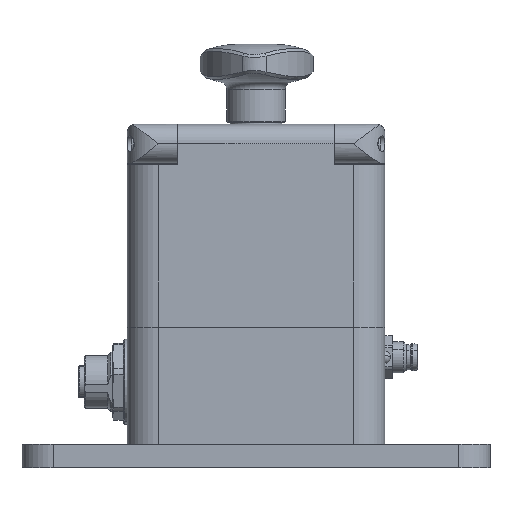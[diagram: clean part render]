
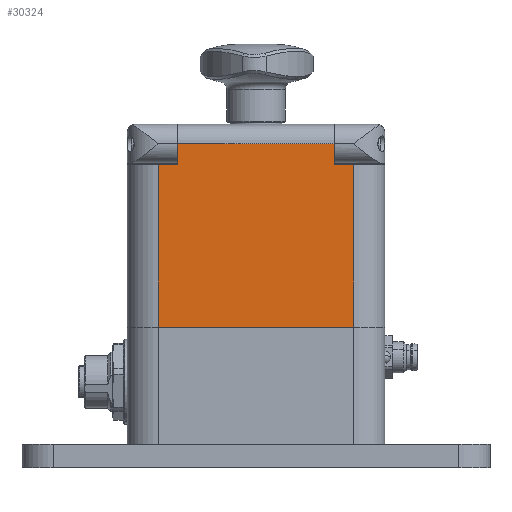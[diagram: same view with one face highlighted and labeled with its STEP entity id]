
A CAD part, front view. The second image highlights one B-rep face of the part: STEP entity #30324.
In plain terms, the highlighted planar face has unit normal (0, -1, 0) as drawn and (0, 0, -1) by its records, which use the part's own axes.
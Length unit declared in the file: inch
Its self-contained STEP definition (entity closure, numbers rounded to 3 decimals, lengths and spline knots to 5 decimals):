
#315 = DIRECTION ( 'NONE',  ( 1., 0., 0. ) ) ;
#533 = CARTESIAN_POINT ( 'NONE',  ( 0.31496, 1.1811, -2.28346 ) ) ;
#1809 = VECTOR ( 'NONE', #7686, 39.37008 ) ;
#2292 = VERTEX_POINT ( 'NONE', #29556 ) ;
#3008 = FACE_OUTER_BOUND ( 'NONE', #35938, .T. ) ;
#3874 = LINE ( 'NONE', #38764, #25384 ) ;
#4617 = ORIENTED_EDGE ( 'NONE', *, *, #6056, .F. ) ;
#5524 = VERTEX_POINT ( 'NONE', #19600 ) ;
#5623 = AXIS2_PLACEMENT_3D ( 'NONE', #31825, #28690, #12201 ) ;
#6056 = EDGE_CURVE ( 'NONE', #30313, #23008, #29767, .T. ) ;
#6262 = VERTEX_POINT ( 'NONE', #28909 ) ;
#7116 = VECTOR ( 'NONE', #14816, 39.37008 ) ;
#7451 = CARTESIAN_POINT ( 'NONE',  ( 2.59843, 1.1811, -2.28346 ) ) ;
#7686 = DIRECTION ( 'NONE',  ( 0., -1., 0. ) ) ;
#9061 = VECTOR ( 'NONE', #29981, 39.37008 ) ;
#9303 = LINE ( 'NONE', #21197, #39857 ) ;
#10093 = VERTEX_POINT ( 'NONE', #24231 ) ;
#10256 = ORIENTED_EDGE ( 'NONE', *, *, #30127, .F. ) ;
#10438 = ORIENTED_EDGE ( 'NONE', *, *, #39153, .T. ) ;
#12201 = DIRECTION ( 'NONE',  ( -1., 0., 0. ) ) ;
#14114 = ORIENTED_EDGE ( 'NONE', *, *, #15359, .T. ) ;
#14816 = DIRECTION ( 'NONE',  ( 0., -1., 0. ) ) ;
#15000 = ORIENTED_EDGE ( 'NONE', *, *, #27052, .T. ) ;
#15225 = CARTESIAN_POINT ( 'NONE',  ( 0.51181, 3.22835, -2.28346 ) ) ;
#15359 = EDGE_CURVE ( 'NONE', #30884, #2292, #3874, .T. ) ;
#15691 = ORIENTED_EDGE ( 'NONE', *, *, #39222, .T. ) ;
#17660 = DIRECTION ( 'NONE',  ( 0., 1., 0. ) ) ;
#19600 = CARTESIAN_POINT ( 'NONE',  ( 0.51181, 2.82283, -2.28346 ) ) ;
#19799 = ORIENTED_EDGE ( 'NONE', *, *, #38049, .F. ) ;
#20590 = LINE ( 'NONE', #33535, #21115 ) ;
#21115 = VECTOR ( 'NONE', #17660, 39.37008 ) ;
#21197 = CARTESIAN_POINT ( 'NONE',  ( 2.28346, 1.14173, -2.28346 ) ) ;
#22441 = VECTOR ( 'NONE', #39595, 39.37008 ) ;
#23008 = VERTEX_POINT ( 'NONE', #24561 ) ;
#24231 = CARTESIAN_POINT ( 'NONE',  ( 0.31496, 2.82283, -2.28346 ) ) ;
#24561 = CARTESIAN_POINT ( 'NONE',  ( 2.08661, 2.82283, -2.28346 ) ) ;
#25363 = PLANE ( 'NONE',  #5623 ) ;
#25384 = VECTOR ( 'NONE', #315, 39.37008 ) ;
#25466 = VERTEX_POINT ( 'NONE', #533 ) ;
#26800 = EDGE_CURVE ( 'NONE', #30884, #5524, #27351, .T. ) ;
#27052 = EDGE_CURVE ( 'NONE', #2292, #23008, #36097, .T. ) ;
#27351 = LINE ( 'NONE', #15225, #7116 ) ;
#28333 = CARTESIAN_POINT ( 'NONE',  ( 2.59843, 2.82283, -2.28346 ) ) ;
#28501 = DIRECTION ( 'NONE',  ( 0., -1., 0. ) ) ;
#28570 = VECTOR ( 'NONE', #31056, 39.37008 ) ;
#28690 = DIRECTION ( 'NONE',  ( 0., 0., 1. ) ) ;
#28825 = CARTESIAN_POINT ( 'NONE',  ( 0.51181, 3.0315, -2.28346 ) ) ;
#28909 = CARTESIAN_POINT ( 'NONE',  ( 2.28346, 1.1811, -2.28346 ) ) ;
#29556 = CARTESIAN_POINT ( 'NONE',  ( 2.08661, 3.0315, -2.28346 ) ) ;
#29767 = LINE ( 'NONE', #35643, #22441 ) ;
#29981 = DIRECTION ( 'NONE',  ( 1., 0., 0. ) ) ;
#30127 = EDGE_CURVE ( 'NONE', #5524, #10093, #33984, .T. ) ;
#30313 = VERTEX_POINT ( 'NONE', #32509 ) ;
#30324 = ADVANCED_FACE ( 'NONE', ( #3008 ), #25363, .F. ) ;
#30382 = LINE ( 'NONE', #7451, #9061 ) ;
#30884 = VERTEX_POINT ( 'NONE', #28825 ) ;
#31056 = DIRECTION ( 'NONE',  ( -1., 0., 0. ) ) ;
#31825 = CARTESIAN_POINT ( 'NONE',  ( 2.59843, 2.83465, -2.28346 ) ) ;
#32509 = CARTESIAN_POINT ( 'NONE',  ( 2.28346, 2.82283, -2.28346 ) ) ;
#33535 = CARTESIAN_POINT ( 'NONE',  ( 0.31496, 2.83465, -2.28346 ) ) ;
#33984 = LINE ( 'NONE', #28333, #28570 ) ;
#35643 = CARTESIAN_POINT ( 'NONE',  ( 2.59843, 2.82283, -2.28346 ) ) ;
#35938 = EDGE_LOOP ( 'NONE', ( #19799, #10438, #10256, #41337, #14114, #15000, #4617, #15691 ) ) ;
#36097 = LINE ( 'NONE', #36296, #1809 ) ;
#36296 = CARTESIAN_POINT ( 'NONE',  ( 2.08661, 3.22835, -2.28346 ) ) ;
#38049 = EDGE_CURVE ( 'NONE', #25466, #6262, #30382, .T. ) ;
#38764 = CARTESIAN_POINT ( 'NONE',  ( 2.59843, 3.0315, -2.28346 ) ) ;
#39153 = EDGE_CURVE ( 'NONE', #25466, #10093, #20590, .T. ) ;
#39222 = EDGE_CURVE ( 'NONE', #30313, #6262, #9303, .T. ) ;
#39595 = DIRECTION ( 'NONE',  ( -1., 0., 0. ) ) ;
#39857 = VECTOR ( 'NONE', #28501, 39.37008 ) ;
#41337 = ORIENTED_EDGE ( 'NONE', *, *, #26800, .F. ) ;
